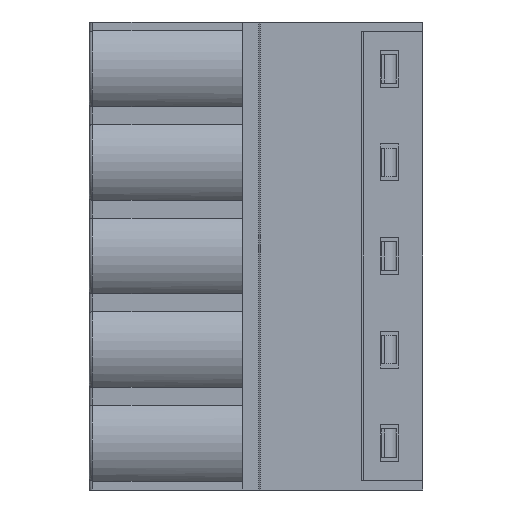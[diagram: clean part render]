
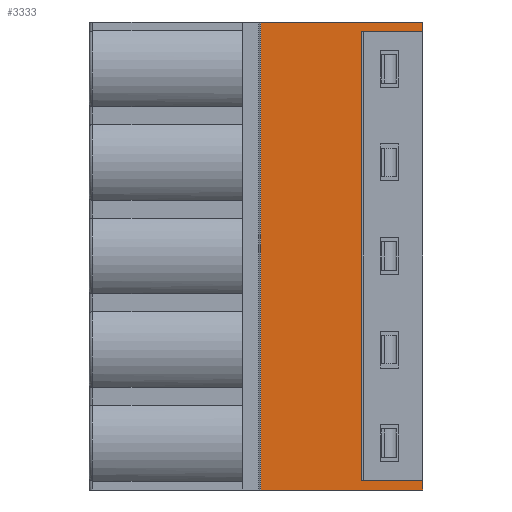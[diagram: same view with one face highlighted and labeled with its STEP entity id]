
A CAD part, left-side view. The second image highlights one B-rep face of the part: STEP entity #3333.
In plain terms, the highlighted planar face has unit normal (-1, 0, 0).
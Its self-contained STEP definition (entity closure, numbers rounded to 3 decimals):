
#249 = VERTEX_POINT ( 'NONE', #16340 ) ;
#964 = CARTESIAN_POINT ( 'NONE',  ( -3.9, 3.3, 24.908 ) ) ;
#1311 = LINE ( 'NONE', #21040, #12979 ) ;
#1330 = VERTEX_POINT ( 'NONE', #12570 ) ;
#1989 = B_SPLINE_CURVE_WITH_KNOTS ( 'NONE', 3,
 ( #18709, #20235, #5224, #11906 ),
 .UNSPECIFIED., .F., .F.,
 ( 4, 4 ),
 ( 0., 1. ),
 .UNSPECIFIED. ) ;
#2349 = B_SPLINE_CURVE_WITH_KNOTS ( 'NONE', 3,
 ( #10705, #9051, #6554, #14996 ),
 .UNSPECIFIED., .F., .F.,
 ( 4, 4 ),
 ( 0., 1. ),
 .UNSPECIFIED. ) ;
#2360 = CARTESIAN_POINT ( 'NONE',  ( -3.9, 0., 0. ) ) ;
#2691 = CARTESIAN_POINT ( 'NONE',  ( -3.9, 0., 25.4 ) ) ;
#2738 = CARTESIAN_POINT ( 'NONE',  ( -3.9, 2.9, 0.49 ) ) ;
#2777 = PLANE ( 'NONE',  #17586 ) ;
#3101 = ORIENTED_EDGE ( 'NONE', *, *, #13017, .F. ) ;
#3333 = ADVANCED_FACE ( 'NONE', ( #9974 ), #2777, .T. ) ;
#3533 = ORIENTED_EDGE ( 'NONE', *, *, #10433, .F. ) ;
#4149 = ORIENTED_EDGE ( 'NONE', *, *, #16402, .F. ) ;
#4708 = EDGE_LOOP ( 'NONE', ( #6377, #5802, #3533, #3101, #16483, #11638, #6946, #7370, #4149, #13589 ) ) ;
#5224 = CARTESIAN_POINT ( 'NONE',  ( -3.9, 3.033, 24.909 ) ) ;
#5505 = VERTEX_POINT ( 'NONE', #20087 ) ;
#5635 = DIRECTION ( 'NONE',  ( 0., -1., 0. ) ) ;
#5678 = LINE ( 'NONE', #964, #6133 ) ;
#5802 = ORIENTED_EDGE ( 'NONE', *, *, #12261, .F. ) ;
#6133 = VECTOR ( 'NONE', #9290, 1000. ) ;
#6188 = VERTEX_POINT ( 'NONE', #12824 ) ;
#6377 = ORIENTED_EDGE ( 'NONE', *, *, #14065, .T. ) ;
#6554 = CARTESIAN_POINT ( 'NONE',  ( -3.9, 0.967, 24.91 ) ) ;
#6946 = ORIENTED_EDGE ( 'NONE', *, *, #8606, .T. ) ;
#7181 = DIRECTION ( 'NONE',  ( 0., -1., 0. ) ) ;
#7349 = CARTESIAN_POINT ( 'NONE',  ( -3.9, 8.8, 0. ) ) ;
#7370 = ORIENTED_EDGE ( 'NONE', *, *, #12529, .F. ) ;
#7650 = EDGE_CURVE ( 'NONE', #1330, #249, #5678, .T. ) ;
#7735 = CARTESIAN_POINT ( 'NONE',  ( -3.9, 1.933, 0.49 ) ) ;
#7868 = B_SPLINE_CURVE_WITH_KNOTS ( 'NONE', 3,
 ( #20875, #17470, #19125, #14417 ),
 .UNSPECIFIED., .F., .F.,
 ( 4, 4 ),
 ( 0., 1. ),
 .UNSPECIFIED. ) ;
#8606 = EDGE_CURVE ( 'NONE', #14242, #6188, #2349, .T. ) ;
#8635 = VERTEX_POINT ( 'NONE', #2691 ) ;
#8832 = CARTESIAN_POINT ( 'NONE',  ( -3.9, 8.8, 0. ) ) ;
#9051 = CARTESIAN_POINT ( 'NONE',  ( -3.9, 1.933, 24.91 ) ) ;
#9068 = DIRECTION ( 'NONE',  ( 0., 0., -1. ) ) ;
#9290 = DIRECTION ( 'NONE',  ( 0., 0., -1. ) ) ;
#9558 = EDGE_CURVE ( 'NONE', #17234, #15011, #19739, .T. ) ;
#9974 = FACE_OUTER_BOUND ( 'NONE', #4708, .T. ) ;
#10099 = CARTESIAN_POINT ( 'NONE',  ( -3.9, 0., 0.49 ) ) ;
#10433 = EDGE_CURVE ( 'NONE', #13808, #5505, #17167, .T. ) ;
#10457 = LINE ( 'NONE', #20642, #18557 ) ;
#10705 = CARTESIAN_POINT ( 'NONE',  ( -3.9, 2.9, 24.91 ) ) ;
#11335 = EDGE_CURVE ( 'NONE', #1330, #14242, #1989, .T. ) ;
#11638 = ORIENTED_EDGE ( 'NONE', *, *, #11335, .T. ) ;
#11906 = CARTESIAN_POINT ( 'NONE',  ( -3.9, 2.9, 24.91 ) ) ;
#12261 = EDGE_CURVE ( 'NONE', #5505, #14063, #1311, .T. ) ;
#12264 = VECTOR ( 'NONE', #9068, 1000. ) ;
#12379 = CARTESIAN_POINT ( 'NONE',  ( -3.9, 8.8, 25.4 ) ) ;
#12529 = EDGE_CURVE ( 'NONE', #8635, #6188, #17392, .T. ) ;
#12570 = CARTESIAN_POINT ( 'NONE',  ( -3.9, 3.3, 24.908 ) ) ;
#12824 = CARTESIAN_POINT ( 'NONE',  ( -3.9, 0., 24.91 ) ) ;
#12942 = CARTESIAN_POINT ( 'NONE',  ( -3.9, 8.8, 25.4 ) ) ;
#12979 = VECTOR ( 'NONE', #21363, 1000. ) ;
#13017 = EDGE_CURVE ( 'NONE', #249, #13808, #7868, .T. ) ;
#13421 = CARTESIAN_POINT ( 'NONE',  ( -3.9, 2.9, 24.91 ) ) ;
#13589 = ORIENTED_EDGE ( 'NONE', *, *, #9558, .T. ) ;
#13808 = VERTEX_POINT ( 'NONE', #2738 ) ;
#14063 = VERTEX_POINT ( 'NONE', #2360 ) ;
#14065 = EDGE_CURVE ( 'NONE', #15011, #14063, #17263, .T. ) ;
#14242 = VERTEX_POINT ( 'NONE', #13421 ) ;
#14417 = CARTESIAN_POINT ( 'NONE',  ( -3.9, 2.9, 0.49 ) ) ;
#14996 = CARTESIAN_POINT ( 'NONE',  ( -3.9, 0., 24.91 ) ) ;
#15011 = VERTEX_POINT ( 'NONE', #7349 ) ;
#15429 = CARTESIAN_POINT ( 'NONE',  ( -3.9, 0., 25.4 ) ) ;
#16045 = VECTOR ( 'NONE', #7181, 1000. ) ;
#16121 = DIRECTION ( 'NONE',  ( 0., 0., -1. ) ) ;
#16340 = CARTESIAN_POINT ( 'NONE',  ( -3.9, 3.3, 0.492 ) ) ;
#16402 = EDGE_CURVE ( 'NONE', #17234, #8635, #10457, .T. ) ;
#16483 = ORIENTED_EDGE ( 'NONE', *, *, #7650, .F. ) ;
#17167 = B_SPLINE_CURVE_WITH_KNOTS ( 'NONE', 3,
 ( #21610, #7735, #21514, #10099 ),
 .UNSPECIFIED., .F., .F.,
 ( 4, 4 ),
 ( 0., 1. ),
 .UNSPECIFIED. ) ;
#17234 = VERTEX_POINT ( 'NONE', #12379 ) ;
#17263 = LINE ( 'NONE', #8832, #16045 ) ;
#17392 = LINE ( 'NONE', #15429, #12264 ) ;
#17470 = CARTESIAN_POINT ( 'NONE',  ( -3.9, 3.167, 0.492 ) ) ;
#17586 = AXIS2_PLACEMENT_3D ( 'NONE', #19333, #21085, #19214 ) ;
#18557 = VECTOR ( 'NONE', #5635, 1000. ) ;
#18709 = CARTESIAN_POINT ( 'NONE',  ( -3.9, 3.3, 24.908 ) ) ;
#18777 = VECTOR ( 'NONE', #16121, 1000. ) ;
#19125 = CARTESIAN_POINT ( 'NONE',  ( -3.9, 3.033, 0.491 ) ) ;
#19214 = DIRECTION ( 'NONE',  ( 0., 0., 1. ) ) ;
#19333 = CARTESIAN_POINT ( 'NONE',  ( -3.9, 8.9, 0. ) ) ;
#19739 = LINE ( 'NONE', #12942, #18777 ) ;
#20087 = CARTESIAN_POINT ( 'NONE',  ( -3.9, 0., 0.49 ) ) ;
#20235 = CARTESIAN_POINT ( 'NONE',  ( -3.9, 3.167, 24.908 ) ) ;
#20642 = CARTESIAN_POINT ( 'NONE',  ( -3.9, 8.8, 25.4 ) ) ;
#20875 = CARTESIAN_POINT ( 'NONE',  ( -3.9, 3.3, 0.492 ) ) ;
#21040 = CARTESIAN_POINT ( 'NONE',  ( -3.9, 0., 0.49 ) ) ;
#21085 = DIRECTION ( 'NONE',  ( -1., 0., 0. ) ) ;
#21363 = DIRECTION ( 'NONE',  ( 0., 0., -1. ) ) ;
#21514 = CARTESIAN_POINT ( 'NONE',  ( -3.9, 0.967, 0.49 ) ) ;
#21610 = CARTESIAN_POINT ( 'NONE',  ( -3.9, 2.9, 0.49 ) ) ;
